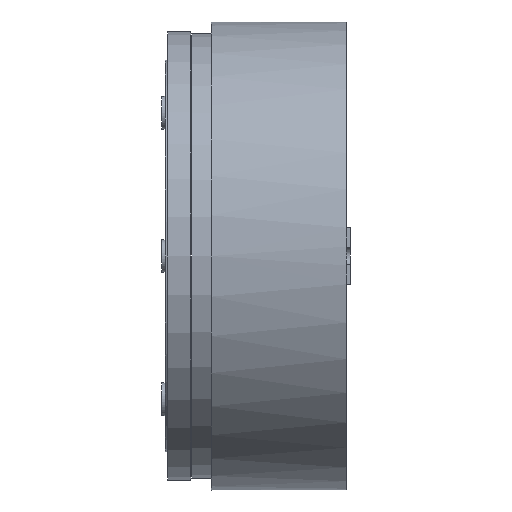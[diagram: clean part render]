
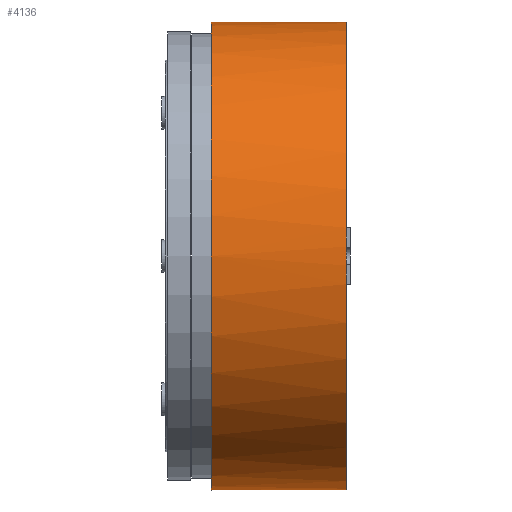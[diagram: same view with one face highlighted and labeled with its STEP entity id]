
A CAD part, front view. The second image highlights one B-rep face of the part: STEP entity #4136.
In plain terms, the highlighted cylindrical face has radius 53.75 mm (diameter 107.5 mm), a full revolution.
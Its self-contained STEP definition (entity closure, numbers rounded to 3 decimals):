
#110=CYLINDRICAL_SURFACE('',#4685,53.75);
#200=FACE_BOUND('',#1110,.T.);
#201=FACE_BOUND('',#1111,.T.);
#265=LINE('',#6201,#382);
#266=LINE('',#6205,#383);
#382=VECTOR('',#4816,1.);
#383=VECTOR('',#4819,1.);
#788=FACE_OUTER_BOUND('',#1109,.T.);
#1109=EDGE_LOOP('',(#3679,#3680));
#1110=EDGE_LOOP('',(#3681,#3682,#3683,#3684,#3685,#3686));
#1111=EDGE_LOOP('',(#3687));
#1515=CIRCLE('',#4675,53.75);
#1519=CIRCLE('',#4684,53.75);
#1520=CIRCLE('',#4686,53.75);
#1580=B_SPLINE_CURVE_WITH_KNOTS('',3,(#6208,#6209,#6210,#6211,#6212,#6213,
#6214,#6215,#6216,#6217,#6218,#6219,#6220,#6221,#6222,#6223,#6224,#6225),
 .UNSPECIFIED.,.F.,.F.,(4,2,2,2,2,2,2,2,4),(0.678,0.848,
1.018,1.187,1.357,1.526,1.696,
1.866,2.035),.UNSPECIFIED.);
#1581=B_SPLINE_CURVE_WITH_KNOTS('',3,(#6228,#6229,#6230,#6231,#6232,#6233,
#6234,#6235,#6236,#6237,#6238,#6239,#6240,#6241,#6242,#6243,#6244,#6245,
#6246),.UNSPECIFIED.,.F.,.F.,(4,2,2,2,3,2,2,2,4),(2.035,2.205,
2.374,2.544,2.714,2.883,3.053,
3.222,3.392),.UNSPECIFIED.);
#1694=VERTEX_POINT('',#6199);
#1695=VERTEX_POINT('',#6200);
#1696=VERTEX_POINT('',#6202);
#1697=VERTEX_POINT('',#6204);
#2011=VERTEX_POINT('',#9588);
#2014=VERTEX_POINT('',#9599);
#2017=VERTEX_POINT('',#9614);
#2083=EDGE_CURVE('',#1694,#1695,#265,.T.);
#2085=EDGE_CURVE('',#1696,#1697,#266,.T.);
#2087=EDGE_CURVE('',#1695,#1696,#1580,.T.);
#2089=EDGE_CURVE('',#1696,#1695,#1581,.T.);
#2587=EDGE_CURVE('',#2011,#2014,#1515,.T.);
#2591=EDGE_CURVE('',#2017,#2017,#1519,.T.);
#2592=EDGE_CURVE('',#2014,#2011,#1520,.T.);
#3679=ORIENTED_EDGE('',*,*,#2592,.F.);
#3680=ORIENTED_EDGE('',*,*,#2587,.F.);
#3681=ORIENTED_EDGE('',*,*,#2085,.T.);
#3682=ORIENTED_EDGE('',*,*,#2085,.F.);
#3683=ORIENTED_EDGE('',*,*,#2089,.T.);
#3684=ORIENTED_EDGE('',*,*,#2083,.F.);
#3685=ORIENTED_EDGE('',*,*,#2083,.T.);
#3686=ORIENTED_EDGE('',*,*,#2087,.T.);
#3687=ORIENTED_EDGE('',*,*,#2591,.T.);
#4136=ADVANCED_FACE('',(#788,#200,#201),#110,.T.);
#4675=AXIS2_PLACEMENT_3D('',#9603,#5879,#5880);
#4684=AXIS2_PLACEMENT_3D('',#9615,#5897,#5898);
#4685=AXIS2_PLACEMENT_3D('',#9616,#5899,#5900);
#4686=AXIS2_PLACEMENT_3D('',#9617,#5901,#5902);
#4816=DIRECTION('',(1.,0.,0.));
#4819=DIRECTION('',(1.,0.,0.));
#5879=DIRECTION('center_axis',(1.,0.,0.));
#5880=DIRECTION('ref_axis',(0.,1.,0.));
#5897=DIRECTION('center_axis',(1.,0.,0.));
#5898=DIRECTION('ref_axis',(0.,1.,0.));
#5899=DIRECTION('center_axis',(1.,0.,0.));
#5900=DIRECTION('ref_axis',(0.,1.,0.));
#5901=DIRECTION('center_axis',(1.,0.,0.));
#5902=DIRECTION('ref_axis',(0.,1.,0.));
#6199=CARTESIAN_POINT('',(3.,53.75,0.));
#6200=CARTESIAN_POINT('',(4.,53.75,0.));
#6201=CARTESIAN_POINT('',(0.,53.75,0.));
#6202=CARTESIAN_POINT('',(13.,53.75,0.));
#6204=CARTESIAN_POINT('',(14.,53.75,0.));
#6205=CARTESIAN_POINT('',(0.,53.75,0.));
#6208=CARTESIAN_POINT('Ctrl Pts',(4.,53.75,0.));
#6209=CARTESIAN_POINT('Ctrl Pts',(4.,53.75,-0.565));
#6210=CARTESIAN_POINT('Ctrl Pts',(4.113,53.74,-1.168));
#6211=CARTESIAN_POINT('Ctrl Pts',(4.572,53.705,-2.277));
#6212=CARTESIAN_POINT('Ctrl Pts',(4.919,53.679,-2.783));
#6213=CARTESIAN_POINT('Ctrl Pts',(5.717,53.632,-3.581));
#6214=CARTESIAN_POINT('Ctrl Pts',(6.223,53.607,-3.928));
#6215=CARTESIAN_POINT('Ctrl Pts',(7.332,53.571,-4.387));
#6216=CARTESIAN_POINT('Ctrl Pts',(7.935,53.561,-4.5));
#6217=CARTESIAN_POINT('Ctrl Pts',(9.065,53.561,-4.5));
#6218=CARTESIAN_POINT('Ctrl Pts',(9.668,53.571,-4.387));
#6219=CARTESIAN_POINT('Ctrl Pts',(10.777,53.607,-3.928));
#6220=CARTESIAN_POINT('Ctrl Pts',(11.283,53.632,-3.581));
#6221=CARTESIAN_POINT('Ctrl Pts',(12.081,53.679,-2.783));
#6222=CARTESIAN_POINT('Ctrl Pts',(12.428,53.705,-2.277));
#6223=CARTESIAN_POINT('Ctrl Pts',(12.887,53.74,-1.168));
#6224=CARTESIAN_POINT('Ctrl Pts',(13.,53.75,-0.565));
#6225=CARTESIAN_POINT('Ctrl Pts',(13.,53.75,0.));
#6228=CARTESIAN_POINT('Ctrl Pts',(13.,53.75,0.));
#6229=CARTESIAN_POINT('Ctrl Pts',(13.,53.75,0.565));
#6230=CARTESIAN_POINT('Ctrl Pts',(12.887,53.74,1.168));
#6231=CARTESIAN_POINT('Ctrl Pts',(12.428,53.705,2.277));
#6232=CARTESIAN_POINT('Ctrl Pts',(12.081,53.679,2.783));
#6233=CARTESIAN_POINT('Ctrl Pts',(11.283,53.632,3.581));
#6234=CARTESIAN_POINT('Ctrl Pts',(10.777,53.607,3.928));
#6235=CARTESIAN_POINT('Ctrl Pts',(9.668,53.571,4.387));
#6236=CARTESIAN_POINT('Ctrl Pts',(9.065,53.561,4.5));
#6237=CARTESIAN_POINT('Ctrl Pts',(8.5,53.561,4.5));
#6238=CARTESIAN_POINT('Ctrl Pts',(7.935,53.561,4.5));
#6239=CARTESIAN_POINT('Ctrl Pts',(7.332,53.571,4.387));
#6240=CARTESIAN_POINT('Ctrl Pts',(6.223,53.607,3.928));
#6241=CARTESIAN_POINT('Ctrl Pts',(5.717,53.632,3.581));
#6242=CARTESIAN_POINT('Ctrl Pts',(4.919,53.679,2.783));
#6243=CARTESIAN_POINT('Ctrl Pts',(4.572,53.705,2.277));
#6244=CARTESIAN_POINT('Ctrl Pts',(4.113,53.74,1.168));
#6245=CARTESIAN_POINT('Ctrl Pts',(4.,53.75,0.565));
#6246=CARTESIAN_POINT('Ctrl Pts',(4.,53.75,0.));
#9588=CARTESIAN_POINT('',(15.5,-53.356,6.5));
#9599=CARTESIAN_POINT('',(15.5,-53.356,-6.5));
#9603=CARTESIAN_POINT('Origin',(15.5,0.,0.));
#9614=CARTESIAN_POINT('',(-15.5,53.75,0.));
#9615=CARTESIAN_POINT('Origin',(-15.5,0.,0.));
#9616=CARTESIAN_POINT('Origin',(0.,0.,0.));
#9617=CARTESIAN_POINT('Origin',(15.5,0.,0.));
